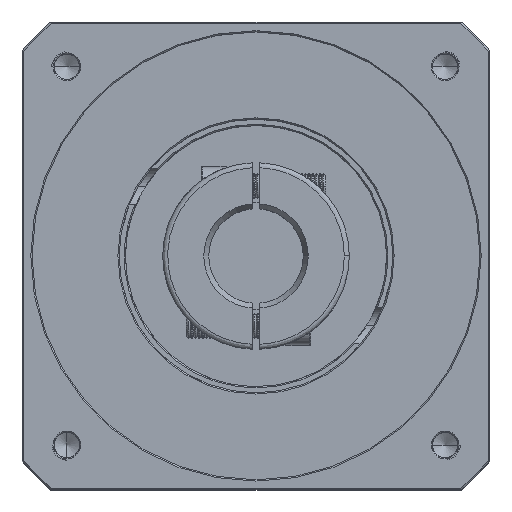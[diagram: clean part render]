
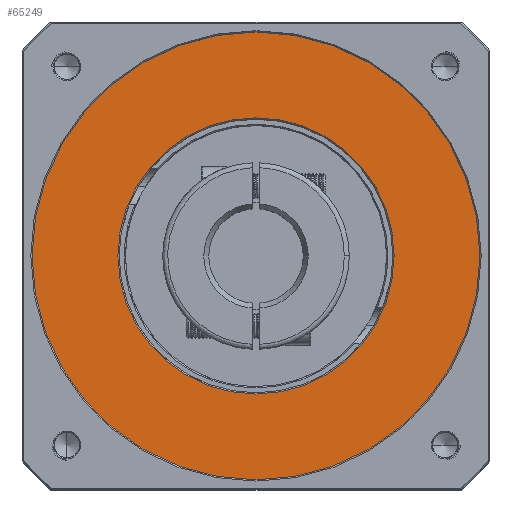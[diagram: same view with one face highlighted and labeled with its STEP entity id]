
A CAD part, top view. The second image highlights one B-rep face of the part: STEP entity #65249.
In plain terms, the highlighted planar face has unit normal (0, 0, 1).
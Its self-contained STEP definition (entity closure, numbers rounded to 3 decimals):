
#3959 = CARTESIAN_POINT ( 'NONE',  ( -96.855, 104.514, 27.254 ) ) ;
#4371 = ORIENTED_EDGE ( 'NONE', *, *, #83741, .T. ) ;
#8465 = CARTESIAN_POINT ( 'NONE',  ( -96.855, 104.514, 27.254 ) ) ;
#9981 = EDGE_CURVE ( 'NONE', #133334, #85758, #134577, .T. ) ;
#17602 = DIRECTION ( 'NONE',  ( 1., 0., 0. ) ) ;
#19676 = DIRECTION ( 'NONE',  ( 0., 0., -1. ) ) ;
#23401 = VERTEX_POINT ( 'NONE', #65183 ) ;
#27592 = AXIS2_PLACEMENT_3D ( 'NONE', #125318, #126222, #62617 ) ;
#28564 = DIRECTION ( 'NONE',  ( 1., 0., 0. ) ) ;
#35006 = CARTESIAN_POINT ( 'NONE',  ( -186.855, 104.514, 27.254 ) ) ;
#38552 = FACE_BOUND ( 'NONE', #99422, .T. ) ;
#39752 = CARTESIAN_POINT ( 'NONE',  ( -96.855, 104.514, 27.254 ) ) ;
#50053 = ORIENTED_EDGE ( 'NONE', *, *, #9981, .T. ) ;
#53077 = PLANE ( 'NONE',  #27592 ) ;
#62617 = DIRECTION ( 'NONE',  ( 1., 0., 0. ) ) ;
#65183 = CARTESIAN_POINT ( 'NONE',  ( -41.355, 104.514, 27.254 ) ) ;
#65249 = ADVANCED_FACE ( 'NONE', ( #38552, #69608 ), #53077, .T. ) ;
#68204 = CARTESIAN_POINT ( 'NONE',  ( -152.355, 104.514, 27.254 ) ) ;
#69608 = FACE_OUTER_BOUND ( 'NONE', #119672, .T. ) ;
#73358 = ORIENTED_EDGE ( 'NONE', *, *, #120592, .T. ) ;
#80612 = DIRECTION ( 'NONE',  ( 0., 0., 1. ) ) ;
#83741 = EDGE_CURVE ( 'NONE', #23401, #106915, #108350, .T. ) ;
#84369 = CARTESIAN_POINT ( 'NONE',  ( -96.855, 104.514, 27.254 ) ) ;
#85758 = VERTEX_POINT ( 'NONE', #35006 ) ;
#89744 = DIRECTION ( 'NONE',  ( 0., 0., 1. ) ) ;
#99422 = EDGE_LOOP ( 'NONE', ( #4371, #73358 ) ) ;
#106915 = VERTEX_POINT ( 'NONE', #68204 ) ;
#107195 = AXIS2_PLACEMENT_3D ( 'NONE', #39752, #19676, #133033 ) ;
#108350 = CIRCLE ( 'NONE', #107195, 55.5 ) ;
#109710 = CIRCLE ( 'NONE', #124836, 90. ) ;
#112546 = DIRECTION ( 'NONE',  ( 1., 0., 0. ) ) ;
#112750 = CARTESIAN_POINT ( 'NONE',  ( -6.855, 104.514, 27.254 ) ) ;
#114310 = AXIS2_PLACEMENT_3D ( 'NONE', #3959, #89744, #28564 ) ;
#117223 = DIRECTION ( 'NONE',  ( 0., 0., -1. ) ) ;
#119672 = EDGE_LOOP ( 'NONE', ( #50053, #132050 ) ) ;
#120592 = EDGE_CURVE ( 'NONE', #106915, #23401, #123051, .T. ) ;
#121194 = EDGE_CURVE ( 'NONE', #85758, #133334, #109710, .T. ) ;
#123051 = CIRCLE ( 'NONE', #130891, 55.5 ) ;
#124836 = AXIS2_PLACEMENT_3D ( 'NONE', #8465, #80612, #17602 ) ;
#125318 = CARTESIAN_POINT ( 'NONE',  ( -96.855, 104.514, 27.254 ) ) ;
#126222 = DIRECTION ( 'NONE',  ( 0., 0., 1. ) ) ;
#130891 = AXIS2_PLACEMENT_3D ( 'NONE', #84369, #117223, #112546 ) ;
#132050 = ORIENTED_EDGE ( 'NONE', *, *, #121194, .T. ) ;
#133033 = DIRECTION ( 'NONE',  ( 1., 0., 0. ) ) ;
#133334 = VERTEX_POINT ( 'NONE', #112750 ) ;
#134577 = CIRCLE ( 'NONE', #114310, 90. ) ;
